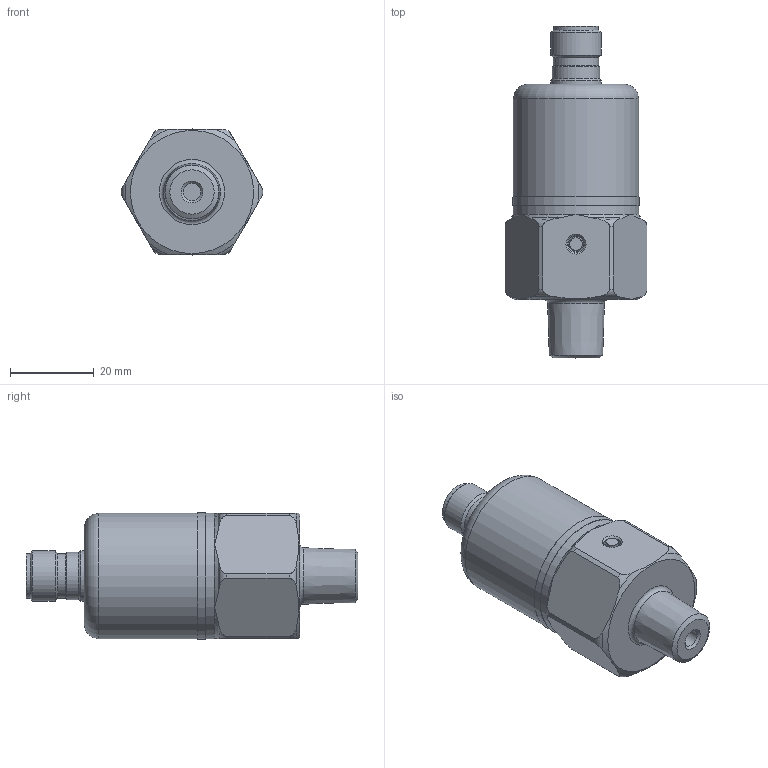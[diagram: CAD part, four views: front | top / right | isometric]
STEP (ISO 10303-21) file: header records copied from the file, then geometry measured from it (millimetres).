
FILE_DESCRIPTION(/* description */ ('STEP AP203'),/* implementation_level */ '2;1');
FILE_NAME(/* name */ 'P_MZ_500_0115',/* time_stamp */ '2023-10-27T09:06:17+02:00',/* author */ ('License CC BY-ND 4.0'),/* organization */ ('CADENAS'),/* preprocessor_version */ 'ST-DEVELOPER v19.3',/* originating_system */ 'PARTsolutions',/* authorisation */ ' ');
FILE_SCHEMA (('CONFIG_CONTROL_DESIGN'));
Length unit declared in the file: millimetre
Products named in the file (1): P_MZ_500_0115
Bounding box: 34 x 79.5 x 30.2 mm (x, y, z)
Volume: 40146.2 mm3; surface area: 7969.9 mm2
Topology: 1 solids, 1 shells, 71 faces, 178 edges, 117 vertices
Faces by surface type: cylinder 19, plane 19, cone 17, torus 16
Full cylindrical faces by diameter (mm): 3 x1, 4 x1, 4.134 x1, 8.4 x1, 10.6 x1, 10.8 x1, 11.3 x1, 12 x2, 30 x2, 30.2 x1
Entity records: 2613 total; most frequent: CARTESIAN_POINT 568, DIRECTION 300, ORIENTED_EDGE 296, EDGE_CURVE 148, AXIS2_PLACEMENT_3D 140, VERTEX_POINT 114, EDGE_LOOP 106, FACE_BOUND 106
